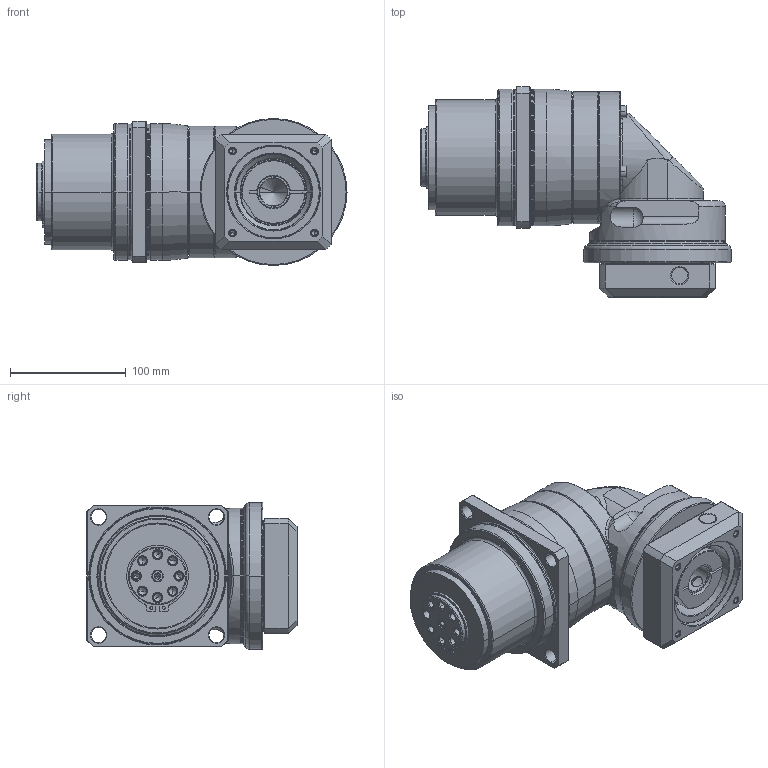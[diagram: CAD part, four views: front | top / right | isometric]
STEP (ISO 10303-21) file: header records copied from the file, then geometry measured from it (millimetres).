
FILE_DESCRIPTION((''),'2;1');
FILE_NAME('PLR120_2ST_24-P0411500101_ASM','2016-06-29T',('d00435'),(''),'PRO/ENGINEER BY PARAMETRIC TECHNOLOGY CORPORATION, 2008410','PRO/ENGINEER BY PARAMETRIC TECHNOLOGY CORPORATION, 2008410','');
FILE_SCHEMA(('CONFIG_CONTROL_DESIGN'));
Length unit declared in the file: millimetre
Products named in the file (11): P0272400001; P0366400001; 22802000029; P1356400001; P1349400001; P1017410001; P1350400101; P0411500101; P0503500008; P0713400101; PLR120_2ST_24-P0411500101_ASM
Assembly tree (10 placements, depth 2):
  PLR120_2ST_24-P0411500101_ASM
    P0272400001
    P0366400001
    22802000029
    P1356400001
    P1349400001
    P1017410001
    P1350400101
    P0411500101
    P0503500008
    P0713400101
Bounding box: 267.8 x 181.5 x 127 mm (x, y, z)
Volume: 2174386.2 mm3; surface area: 352557.1 mm2
Topology: 11 solids, 32 shells, 670 faces, 1561 edges, 933 vertices
Faces by surface type: cylinder 225, cone 196, plane 129, torus 88, bspline 30, sphere 2
Entity records: 22050 total; most frequent: CARTESIAN_POINT 6570, DIRECTION 3460, ORIENTED_EDGE 2942, EDGE_CURVE 1513, AXIS2_PLACEMENT_3D 1467, VERTEX_POINT 933, CIRCLE 796, EDGE_LOOP 772
